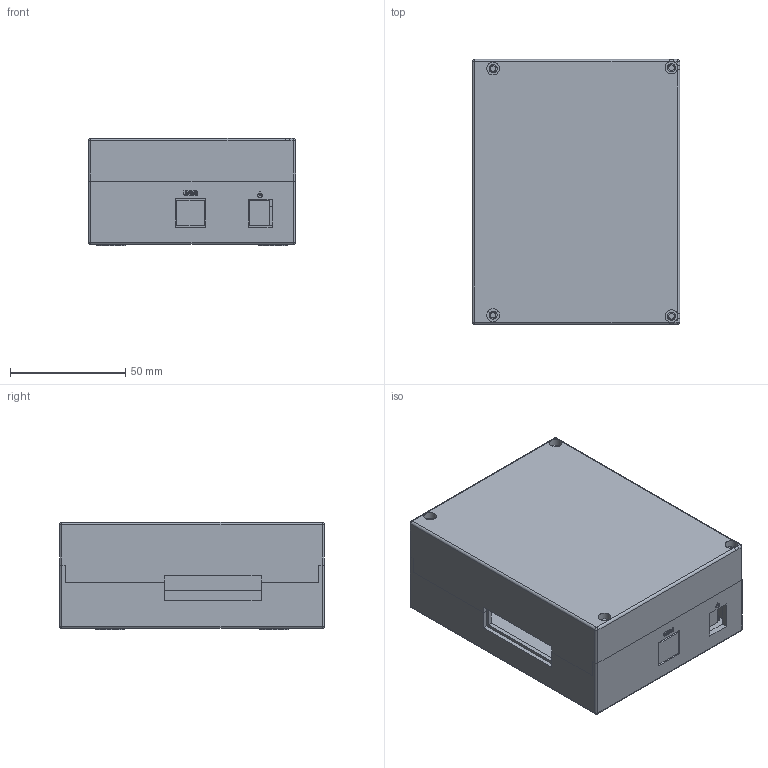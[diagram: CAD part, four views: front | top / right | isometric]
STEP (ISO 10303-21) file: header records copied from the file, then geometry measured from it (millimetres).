
FILE_DESCRIPTION(/* description */ ('Unknown'),/* implementation_level */ '2;1');
FILE_NAME(/* name */ 'Z0A-31S-1C__20200107122859',/* time_stamp */ '2020-01-07T13:50:00+01:00',/* author */ ('Unknown'),/* organization */ ('Unknown'),/* preprocessor_version */ 'ST-DEVELOPER v16.7',/* originating_system */ 'DEX',/* authorisation */ $);
FILE_SCHEMA (('AUTOMOTIVE_DESIGN {1 0 10303 214 3 1 1}'));
Length unit declared in the file: millimetre
Products named in the file (4): Z0A-31S-1C; Z0A-31S-19; Z0A-31S-1A; Z0A-31S-1B
Assembly tree (3 placements, depth 2):
  Z0A-31S-1C
    Z0A-31S-19
    Z0A-31S-1A
    Z0A-31S-1B
Bounding box: 90 x 115.03 x 46.5 mm (x, y, z)
Volume: 128357.7 mm3; surface area: 94280.7 mm2
Topology: 3 solids, 3 shells, 258 faces, 618 edges, 392 vertices
Faces by surface type: plane 160, cylinder 78, bspline 12, sphere 8
Full cylindrical faces by diameter (mm): 2.459 x16, 3.2 x6, 3.5 x4, 5.5 x4, 6 x6, 11.6 x4, 12.6 x4
Entity records: 9651 total; most frequent: CARTESIAN_POINT 2356, DIRECTION 1194, ORIENTED_EDGE 1120, EDGE_CURVE 560, AXIS2_PLACEMENT_3D 404, VERTEX_POINT 386, LINE 386, VECTOR 386
